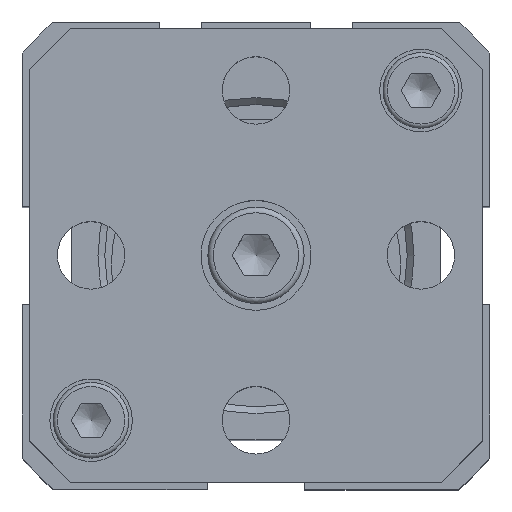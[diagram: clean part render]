
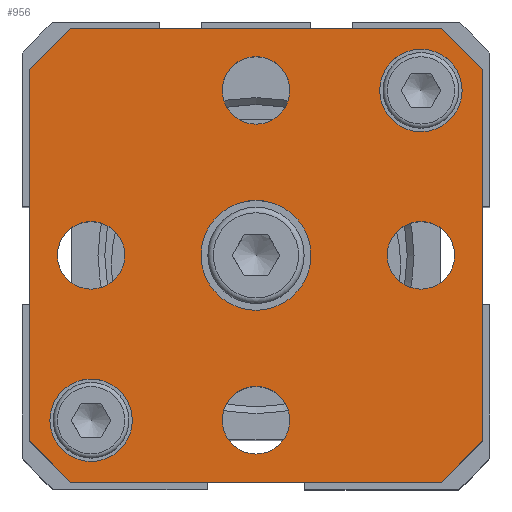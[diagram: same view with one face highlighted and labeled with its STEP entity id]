
A CAD part, top view. The second image highlights one B-rep face of the part: STEP entity #956.
In plain terms, the highlighted planar face has unit normal (0, 0, 1).
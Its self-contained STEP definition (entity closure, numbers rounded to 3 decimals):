
#273=CARTESIAN_POINT('',(9.24,13.683,43.));
#274=VERTEX_POINT('',#273);
#275=CARTESIAN_POINT('',(12.24,13.683,43.));
#276=DIRECTION('',(0.0,0.0,-1.0));
#277=DIRECTION('',(-1.0,0.0,0.0));
#278=AXIS2_PLACEMENT_3D('',#275,#276,#277);
#279=CIRCLE('',#278,3.);
#280=EDGE_CURVE('',#274,#274,#279,.T.);
#342=CARTESIAN_POINT('',(-14.76,-10.317,43.));
#343=VERTEX_POINT('',#342);
#344=CARTESIAN_POINT('',(-11.76,-10.317,43.));
#345=DIRECTION('',(0.0,0.0,-1.0));
#346=DIRECTION('',(-1.0,0.0,0.0));
#347=AXIS2_PLACEMENT_3D('',#344,#345,#346);
#348=CIRCLE('',#347,3.);
#349=EDGE_CURVE('',#343,#343,#348,.T.);
#383=CARTESIAN_POINT('',(-14.218,1.683,43.));
#384=VERTEX_POINT('',#383);
#385=CARTESIAN_POINT('',(-11.76,1.683,43.));
#386=DIRECTION('',(0.0,0.0,-1.0));
#387=DIRECTION('',(-1.0,0.0,0.0));
#388=AXIS2_PLACEMENT_3D('',#385,#386,#387);
#389=CIRCLE('',#388,2.459);
#390=EDGE_CURVE('',#384,#384,#389,.T.);
#432=CARTESIAN_POINT('',(-2.218,13.683,43.));
#433=VERTEX_POINT('',#432);
#434=CARTESIAN_POINT('',(0.24,13.683,43.));
#435=DIRECTION('',(0.0,0.0,-1.0));
#436=DIRECTION('',(-1.0,0.0,0.0));
#437=AXIS2_PLACEMENT_3D('',#434,#435,#436);
#438=CIRCLE('',#437,2.459);
#439=EDGE_CURVE('',#433,#433,#438,.T.);
#481=CARTESIAN_POINT('',(9.782,1.683,43.));
#482=VERTEX_POINT('',#481);
#483=CARTESIAN_POINT('',(12.24,1.683,43.));
#484=DIRECTION('',(0.0,0.0,-1.0));
#485=DIRECTION('',(-1.0,0.0,0.0));
#486=AXIS2_PLACEMENT_3D('',#483,#484,#485);
#487=CIRCLE('',#486,2.459);
#488=EDGE_CURVE('',#482,#482,#487,.T.);
#530=CARTESIAN_POINT('',(-2.218,-10.317,43.));
#531=VERTEX_POINT('',#530);
#532=CARTESIAN_POINT('',(0.24,-10.317,43.));
#533=DIRECTION('',(0.0,0.0,-1.0));
#534=DIRECTION('',(-1.0,0.0,0.0));
#535=AXIS2_PLACEMENT_3D('',#532,#533,#534);
#536=CIRCLE('',#535,2.459);
#537=EDGE_CURVE('',#531,#531,#536,.T.);
#579=CARTESIAN_POINT('',(-3.76,1.683,43.));
#580=VERTEX_POINT('',#579);
#581=CARTESIAN_POINT('',(0.24,1.683,43.));
#582=DIRECTION('',(0.0,0.0,-1.0));
#583=DIRECTION('',(-1.0,0.0,0.0));
#584=AXIS2_PLACEMENT_3D('',#581,#582,#583);
#585=CIRCLE('',#584,4.0);
#586=EDGE_CURVE('',#580,#580,#585,.T.);
#640=CARTESIAN_POINT('',(16.74,15.183,43.));
#641=VERTEX_POINT('',#640);
#642=CARTESIAN_POINT('',(16.74,-11.817,43.));
#643=VERTEX_POINT('',#642);
#644=CARTESIAN_POINT('',(16.74,15.183,43.));
#645=DIRECTION('',(0.0,-1.0,0.0));
#646=VECTOR('',#645,27.);
#647=LINE('',#644,#646);
#648=EDGE_CURVE('',#641,#643,#647,.T.);
#680=CARTESIAN_POINT('',(13.74,-14.817,43.));
#681=VERTEX_POINT('',#680);
#682=CARTESIAN_POINT('',(16.74,-11.817,43.));
#683=DIRECTION('',(-0.707,-0.707,0.0));
#684=VECTOR('',#683,4.243);
#685=LINE('',#682,#684);
#686=EDGE_CURVE('',#643,#681,#685,.T.);
#711=CARTESIAN_POINT('',(-13.26,-14.817,43.));
#712=VERTEX_POINT('',#711);
#713=CARTESIAN_POINT('',(13.74,-14.817,43.));
#714=DIRECTION('',(-1.0,0.0,0.0));
#715=VECTOR('',#714,27.);
#716=LINE('',#713,#715);
#717=EDGE_CURVE('',#681,#712,#716,.T.);
#742=CARTESIAN_POINT('',(-16.26,-11.817,43.));
#743=VERTEX_POINT('',#742);
#744=CARTESIAN_POINT('',(-13.26,-14.817,43.));
#745=DIRECTION('',(-0.707,0.707,0.0));
#746=VECTOR('',#745,4.243);
#747=LINE('',#744,#746);
#748=EDGE_CURVE('',#712,#743,#747,.T.);
#773=CARTESIAN_POINT('',(-16.26,15.183,43.));
#774=VERTEX_POINT('',#773);
#775=CARTESIAN_POINT('',(-16.26,-11.817,43.));
#776=DIRECTION('',(0.0,1.0,0.0));
#777=VECTOR('',#776,27.);
#778=LINE('',#775,#777);
#779=EDGE_CURVE('',#743,#774,#778,.T.);
#804=CARTESIAN_POINT('',(-13.26,18.183,43.));
#805=VERTEX_POINT('',#804);
#806=CARTESIAN_POINT('',(-16.26,15.183,43.));
#807=DIRECTION('',(0.707,0.707,0.0));
#808=VECTOR('',#807,4.243);
#809=LINE('',#806,#808);
#810=EDGE_CURVE('',#774,#805,#809,.T.);
#835=CARTESIAN_POINT('',(13.74,18.183,43.));
#836=VERTEX_POINT('',#835);
#837=CARTESIAN_POINT('',(-13.26,18.183,43.));
#838=DIRECTION('',(1.0,0.0,0.0));
#839=VECTOR('',#838,27.);
#840=LINE('',#837,#839);
#841=EDGE_CURVE('',#805,#836,#840,.T.);
#866=CARTESIAN_POINT('',(13.74,18.183,43.));
#867=DIRECTION('',(0.707,-0.707,0.0));
#868=VECTOR('',#867,4.243);
#869=LINE('',#866,#868);
#870=EDGE_CURVE('',#836,#641,#869,.T.);
#920=CARTESIAN_POINT('',(0.24,1.683,43.));
#921=DIRECTION('',(0.0,0.0,1.0));
#922=DIRECTION('',(1.0,0.0,0.0));
#923=AXIS2_PLACEMENT_3D('',#920,#921,#922);
#924=PLANE('',#923);
#925=ORIENTED_EDGE('',*,*,#648,.F.);
#926=ORIENTED_EDGE('',*,*,#870,.F.);
#927=ORIENTED_EDGE('',*,*,#841,.F.);
#928=ORIENTED_EDGE('',*,*,#810,.F.);
#929=ORIENTED_EDGE('',*,*,#779,.F.);
#930=ORIENTED_EDGE('',*,*,#748,.F.);
#931=ORIENTED_EDGE('',*,*,#717,.F.);
#932=ORIENTED_EDGE('',*,*,#686,.F.);
#933=EDGE_LOOP('',(#925,#926,#927,#928,#929,#930,#931,#932));
#934=FACE_OUTER_BOUND('',#933,.T.);
#935=ORIENTED_EDGE('',*,*,#280,.T.);
#936=EDGE_LOOP('',(#935));
#937=FACE_BOUND('',#936,.T.);
#938=ORIENTED_EDGE('',*,*,#349,.T.);
#939=EDGE_LOOP('',(#938));
#940=FACE_BOUND('',#939,.T.);
#941=ORIENTED_EDGE('',*,*,#390,.T.);
#942=EDGE_LOOP('',(#941));
#943=FACE_BOUND('',#942,.T.);
#944=ORIENTED_EDGE('',*,*,#439,.T.);
#945=EDGE_LOOP('',(#944));
#946=FACE_BOUND('',#945,.T.);
#947=ORIENTED_EDGE('',*,*,#488,.T.);
#948=EDGE_LOOP('',(#947));
#949=FACE_BOUND('',#948,.T.);
#950=ORIENTED_EDGE('',*,*,#537,.T.);
#951=EDGE_LOOP('',(#950));
#952=FACE_BOUND('',#951,.T.);
#953=ORIENTED_EDGE('',*,*,#586,.T.);
#954=EDGE_LOOP('',(#953));
#955=FACE_BOUND('',#954,.T.);
#956=ADVANCED_FACE('',(#934,#937,#940,#943,#946,#949,#952,#955),#924,.T.);
